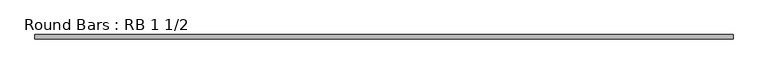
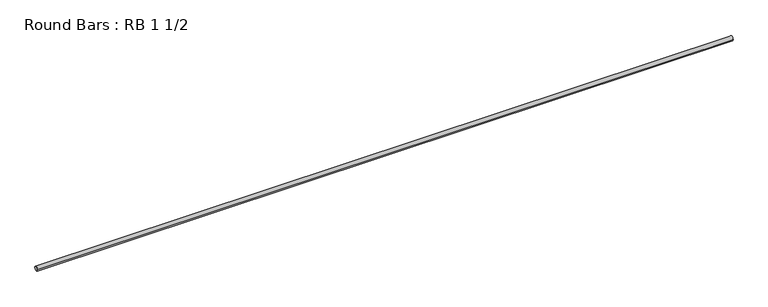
"""IFC4 building model written with IfcOpenShell, lengths in millimetres: member geometry, Round Bars : RB 1 1/2."""

import ifcopenshell
import ifcopenshell.guid

model = None  # the IFC model being written
_history = None  # IfcOwnerHistory: only IFC2X3 demands one
_inside = {}  # id of a spatial element -> (the spatial element, [elements in it])
_under = {}  # id of a project, library or spatial element -> (it, [spatial elements below it])
_declared = {}  # id of a project -> (the project, [libraries it declares])
_typed = {}  # id of a type object -> (the type object, [elements of that type])
_made_of = {}  # id of a material, layer set ... -> (it, [elements and type objects made of it])


def new_model(schema):
    """Start an empty IFC model of exactly this schema.

    Asked for "IFC4X3", IfcOpenShell would pick the latest addendum, in which some entities
    have other attributes; the version numbers below select the first issue.
    IFC2X3 requires an IfcOwnerHistory on every rooted entity: one is made here for all.
    """
    global model, _history
    if schema == "IFC4X3":
        model = ifcopenshell.file(schema_version=(4, 3, 0, 0))
    else:
        model = ifcopenshell.file(schema=schema)
    _inside.clear()
    _under.clear()
    _declared.clear()
    _typed.clear()
    _made_of.clear()
    _history = None
    if model.schema == "IFC2X3":
        org = make("IfcOrganization", Name="unknown")
        user = make(
            "IfcPersonAndOrganization",
            ThePerson=make("IfcPerson", FamilyName="unknown"),
            TheOrganization=org,
        )
        app = make(
            "IfcApplication",
            ApplicationDeveloper=org,
            Version="unknown",
            ApplicationFullName="unknown",
            ApplicationIdentifier="unknown",
        )
        _history = make(
            "IfcOwnerHistory",
            OwningUser=user,
            OwningApplication=app,
            ChangeAction="ADDED",
            CreationDate=0,
        )
    return model


def make(cls, **values):
    """One entity of the class cls with the attributes given. An attribute that is None is left unset."""
    return model.create_entity(
        cls, **{name: value for name, value in values.items() if value is not None}
    )


def rooted(cls, **values):
    """An entity with a GlobalId (a new one), such as an element, a storey or a relation."""
    return make(cls, GlobalId=ifcopenshell.guid.new(), OwnerHistory=_history, **values)


def si_unit(unit_type, name, prefix=None):
    """IfcSIUnit, for example si_unit("LENGTHUNIT", "METRE", prefix="MILLI")."""
    return make("IfcSIUnit", UnitType=unit_type, Prefix=prefix, Name=name)


def assignment(units):
    """IfcUnitAssignment: the units of a project."""
    return None if units is None else make("IfcUnitAssignment", Units=units)


def point(xyz):
    """IfcCartesianPoint."""
    return None if xyz is None else make("IfcCartesianPoint", Coordinates=xyz)


def direction(xyz):
    """IfcDirection."""
    return None if xyz is None else make("IfcDirection", DirectionRatios=xyz)


def frame(location, z_axis=None, x_axis=None):
    """IfcAxis2Placement3D, a coordinate frame: its origin and axes. An axis left out is left unset."""
    return make(
        "IfcAxis2Placement3D",
        Location=point(location),
        Axis=direction(z_axis),
        RefDirection=direction(x_axis),
    )


def frame_2d(location, x_axis=None):
    """IfcAxis2Placement2D, a coordinate frame in the plane: its origin and x axis."""
    return make(
        "IfcAxis2Placement2D", Location=point(location), RefDirection=direction(x_axis)
    )


def origin():
    """The frame at (0, 0, 0) with its axes left unset."""
    return frame((0.0, 0.0, 0.0))


def origin_2d():
    """The frame at (0, 0) in the plane with its x axis left unset."""
    return frame_2d((0.0, 0.0))


def place(relative_to, where):
    """IfcLocalPlacement: puts the frame where relative to a parent placement (None: the world)."""
    return make(
        "IfcLocalPlacement", PlacementRelTo=relative_to, RelativePlacement=where
    )


def context(
    kind, dimensions, precision=None, world=None, true_north=None, identifier=None
):
    """IfcGeometricRepresentationContext, for example the 3D "Model" context."""
    return make(
        "IfcGeometricRepresentationContext",
        ContextIdentifier=identifier,
        ContextType=kind,
        CoordinateSpaceDimension=dimensions,
        Precision=precision,
        WorldCoordinateSystem=world,
        TrueNorth=true_north,
    )


def project(units=None, contexts=None):
    """IfcProject with its units and contexts."""
    return rooted(
        "IfcProject",
        Name="project",
        RepresentationContexts=contexts,
        UnitsInContext=assignment(units),
    )


def spatial(cls, under=None, at=None, **own):
    """A site, building, storey or space (cls), placed at a placement, below another one or the project."""
    s = rooted(cls, ObjectPlacement=at, **own)
    if under is not None:
        _under.setdefault(under.id(), (under, []))[1].append(s)
    return s


def circle_curve(where, radius):
    """IfcCircle in the frame where."""
    return make("IfcCircle", Position=where, Radius=radius)


def trimmed(basis, trim1, trim2, sense, master):
    """IfcTrimmedCurve: the piece of a basis curve between two trims."""
    return make(
        "IfcTrimmedCurve",
        BasisCurve=basis,
        Trim1=trim1,
        Trim2=trim2,
        SenseAgreement=sense,
        MasterRepresentation=master,
    )


def segment(curve, same_sense, transition):
    """IfcCompositeCurveSegment."""
    return make(
        "IfcCompositeCurveSegment",
        Transition=transition,
        SameSense=same_sense,
        ParentCurve=curve,
    )


def composite_curve(segments, self_intersect=None):
    """IfcCompositeCurve: segments joined end to end."""
    return make("IfcCompositeCurve", Segments=segments, SelfIntersect=self_intersect)


def outline(outer, holes=None, kind="AREA"):
    """IfcArbitraryClosedProfileDef: a profile drawn as a closed curve; with holes, ...WithVoids."""
    if holes is None:
        return make("IfcArbitraryClosedProfileDef", ProfileType=kind, OuterCurve=outer)
    return make(
        "IfcArbitraryProfileDefWithVoids",
        ProfileType=kind,
        OuterCurve=outer,
        InnerCurves=holes,
    )


def extrude(swept, where, along, depth):
    """IfcExtrudedAreaSolid: the profile swept, set in the frame where, extruded along a direction by depth."""
    return make(
        "IfcExtrudedAreaSolid",
        SweptArea=swept,
        Position=where,
        ExtrudedDirection=direction(along),
        Depth=depth,
    )


def shape(context_of_items, identifier, shape_type, items):
    """IfcShapeRepresentation: the items that make up one representation, for example the "Body"."""
    return make(
        "IfcShapeRepresentation",
        ContextOfItems=context_of_items,
        RepresentationIdentifier=identifier,
        RepresentationType=shape_type,
        Items=items,
    )


def source(mapping_origin, context_of_items, identifier, shape_type, items):
    """IfcRepresentationMap: a shape defined once, which mapped items show again and again."""
    return make(
        "IfcRepresentationMap",
        MappingOrigin=mapping_origin,
        MappedRepresentation=shape(context_of_items, identifier, shape_type, items),
    )


def transform(
    local_origin,
    x_axis=None,
    y_axis=None,
    z_axis=None,
    scale=None,
    scale2=None,
    scale3=None,
    uniform=True,
):
    """IfcCartesianTransformationOperator3D, or its non-uniform kind. x_axis, y_axis, z_axis: its Axis1, 2, 3."""
    if uniform:
        return make(
            "IfcCartesianTransformationOperator3D",
            Axis1=direction(x_axis),
            Axis2=direction(y_axis),
            LocalOrigin=point(local_origin),
            Scale=scale,
            Axis3=direction(z_axis),
        )
    return make(
        "IfcCartesianTransformationOperator3DnonUniform",
        Axis1=direction(x_axis),
        Axis2=direction(y_axis),
        LocalOrigin=point(local_origin),
        Scale=scale,
        Axis3=direction(z_axis),
        Scale2=scale2,
        Scale3=scale3,
    )


def mapped(mapping_source, mapping_target):
    """IfcMappedItem: shows the shape of a source again, moved by a transform."""
    return make(
        "IfcMappedItem", MappingSource=mapping_source, MappingTarget=mapping_target
    )


def made_of(thing, what):
    """Note that an element or type object is made of a material, layer set ...; save() writes the relation."""
    if what is not None:
        _made_of.setdefault(what.id(), (what, []))[1].append(thing)
    return thing


def element(
    cls,
    number,
    at=None,
    inside=None,
    cuts=None,
    type_object=None,
    material=None,
    context=None,
    identifier="Body",
    shape_type=None,
    held_by="IfcProductDefinitionShape",
    body=None,
    shapes=None,
    **own,
):
    """One element of the class cls, such as IfcWall. Its Tag is "e" and its number.

    at: its placement. inside: the storey or other place that contains it. cuts: it is an
    opening in that element (IfcRelVoidsElement). A single representation is given by context,
    identifier, shape_type and body (its items); several are given by shapes. held_by: the class
    of the entity that holds the representations. save() writes the other relations.
    """
    e = rooted(cls, Tag="e%d" % number, ObjectPlacement=at, **own)
    if body is not None:
        shapes = [shape(context, identifier, shape_type, body)]
    if shapes is not None:
        e.Representation = make(held_by, Representations=shapes)
    if inside is not None:
        _inside.setdefault(inside.id(), (inside, []))[1].append(e)
    if cuts is not None:
        rooted(
            "IfcRelVoidsElement", RelatingBuildingElement=cuts, RelatedOpeningElement=e
        )
    if type_object is not None:
        _typed.setdefault(type_object.id(), (type_object, []))[1].append(e)
    return made_of(e, material)


def aggregate(whole, parts):
    """IfcRelAggregates: a whole, such as a stair, and the parts it consists of."""
    return rooted("IfcRelAggregates", RelatingObject=whole, RelatedObjects=parts)


def save(model, path):
    """Write the relations noted so far, then the file.

    IfcRelAggregates (storeys below a building ...), IfcRelContainedInSpatialStructure (elements
    in a storey), IfcRelDefinesByType, IfcRelAssociatesMaterial and IfcRelDeclares: one each for
    every whole, place, type object, material and project.
    """
    for whole, parts in _under.values():
        aggregate(whole, parts)
    for where, things in _inside.values():
        rooted(
            "IfcRelContainedInSpatialStructure",
            RelatedElements=things,
            RelatingStructure=where,
        )
    for kind, things in _typed.values():
        rooted("IfcRelDefinesByType", RelatedObjects=things, RelatingType=kind)
    for what, things in _made_of.values():
        rooted("IfcRelAssociatesMaterial", RelatedObjects=things, RelatingMaterial=what)
    for by, libraries in _declared.values():
        rooted("IfcRelDeclares", RelatingContext=by, RelatedDefinitions=libraries)
    model.write(path)


def round_bars_rb_1_1_2_2e3cf56a(model_context):
    return source(origin(), model_context, "Body", "SweptSolid", [
        extrude(outline(composite_curve([segment(trimmed(circle_curve(origin_2d(), 19.05), [point((19.05, 0.0))], [point((-19.05, 0.0))], False, "CARTESIAN"), True, "CONTINUOUS"), segment(trimmed(circle_curve(origin_2d(), 19.05), [point((-19.05, 0.0))], [point((19.05, 0.0))], False, "CARTESIAN"), True, "CONTINUOUS")], self_intersect=False)), frame((-3159.8596217, 0.0, 0.0), z_axis=(1.0, 0.0, 0.0), x_axis=(0.0, 1.0, 0.0)), (0.0, 0.0, 1.0), 5987.4741754),
    ])


if __name__ == "__main__":
    model = new_model("IFC4")
    model_context = context("Model", 3, world=origin())
    ifc_project = project(units=[si_unit("LENGTHUNIT", "METRE", prefix="MILLI")], contexts=[model_context])
    site = spatial("IfcSite", under=ifc_project)
    building = spatial("IfcBuilding", under=site)
    placement = place(None, origin())
    round_bars_rb_1_1_2_shape = round_bars_rb_1_1_2_2e3cf56a(model_context)
    element("IfcMember", 1, ObjectType="Round Bars : RB 1 1/2", at=placement, inside=building, context=model_context, shape_type="MappedRepresentation", body=[
        mapped(round_bars_rb_1_1_2_shape, transform((0.0, 0.0, 0.0), x_axis=(1.0, 0.0, 0.0), y_axis=(0.0, 1.0, 0.0), z_axis=(0.0, 0.0, 1.0))),
    ])
    save(model, "model.ifc")
